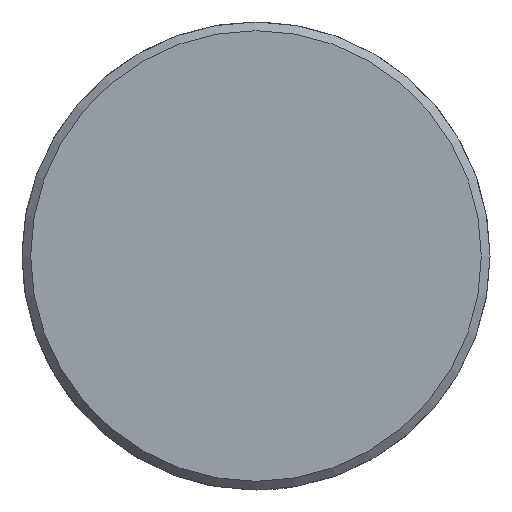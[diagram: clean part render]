
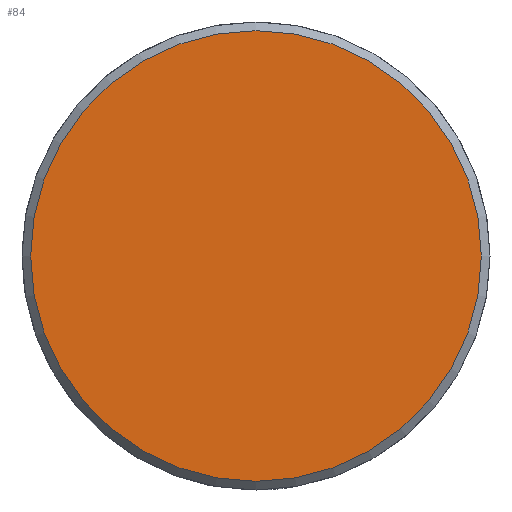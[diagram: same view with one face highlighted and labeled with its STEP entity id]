
A CAD part, front view. The second image highlights one B-rep face of the part: STEP entity #84.
In plain terms, the highlighted planar face has unit normal (0, -1, 0).
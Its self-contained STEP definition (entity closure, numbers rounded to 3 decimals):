
#84 = ADVANCED_FACE( '', ( #113 ), #114, .F. );
#113 = FACE_OUTER_BOUND( '', #148, .T. );
#114 = PLANE( '', #149 );
#148 = EDGE_LOOP( '', ( #235 ) );
#149 = AXIS2_PLACEMENT_3D( '', #236, #237, #238 );
#235 = ORIENTED_EDGE( '', *, *, #314, .T. );
#236 = CARTESIAN_POINT( '', ( 13., 0., 0. ) );
#237 = DIRECTION( '', ( 0., 1., 0. ) );
#238 = DIRECTION( '', ( 0., 0., 1. ) );
#314 = EDGE_CURVE( '', #373, #373, #374, .T. );
#373 = VERTEX_POINT( '', #542 );
#374 = CIRCLE( '', #543, 13. );
#542 = CARTESIAN_POINT( '', ( 0., 0., -13. ) );
#543 = AXIS2_PLACEMENT_3D( '', #608, #609, #610 );
#608 = CARTESIAN_POINT( '', ( 0., 0., 0. ) );
#609 = DIRECTION( '', ( 0., -1., 0. ) );
#610 = DIRECTION( '', ( 0., 0., -1. ) );
